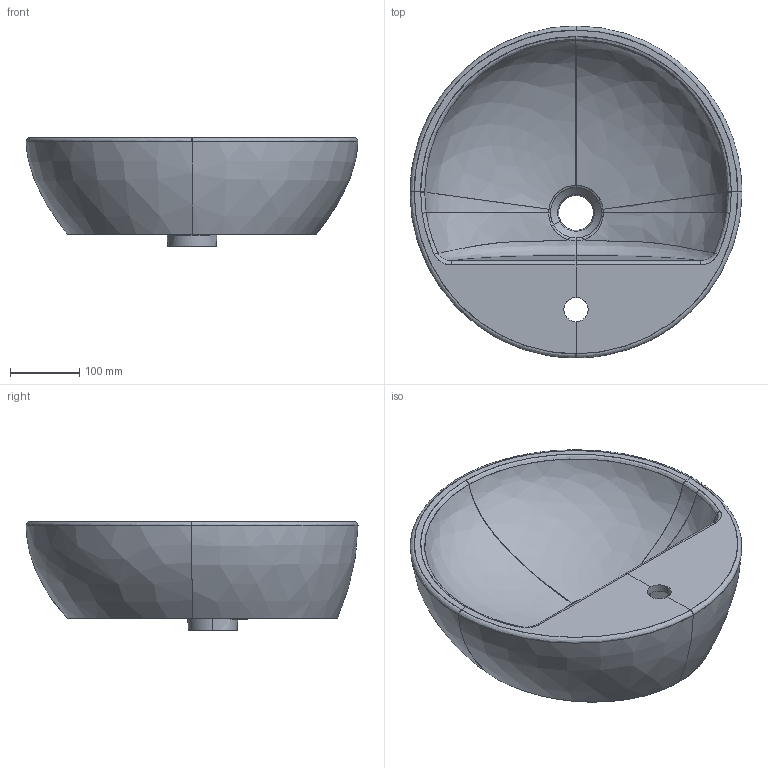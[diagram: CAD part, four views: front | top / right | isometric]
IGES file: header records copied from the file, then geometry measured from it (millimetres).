
Start section: START RECORD GO HERE.
Global section: file name: 5203_EDEN Tondo 48.igs; native system: DASSAULT SYSTEMES CATIA V5 R19 - www.3ds.com; preprocessor: CATIA Version 5 Release 19 SP 5 ; author: gioge; organization: LAPTOP-G94B6G74; date: 20200630.115138; units: millimetre
Bounding box: 479.74 x 479.85 x 157.4 mm (x, y, z)
Surface area: 688766.9 mm2 (no closed solid volume)
Topology: 0 solids, 0 shells, 88 faces, 449 edges, 447 vertices
Faces by surface type: bspline 62, plane 14, revolution 12
